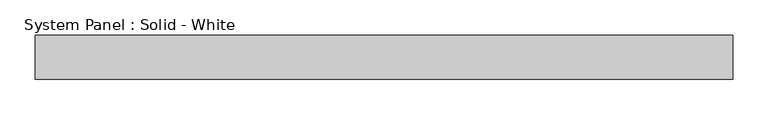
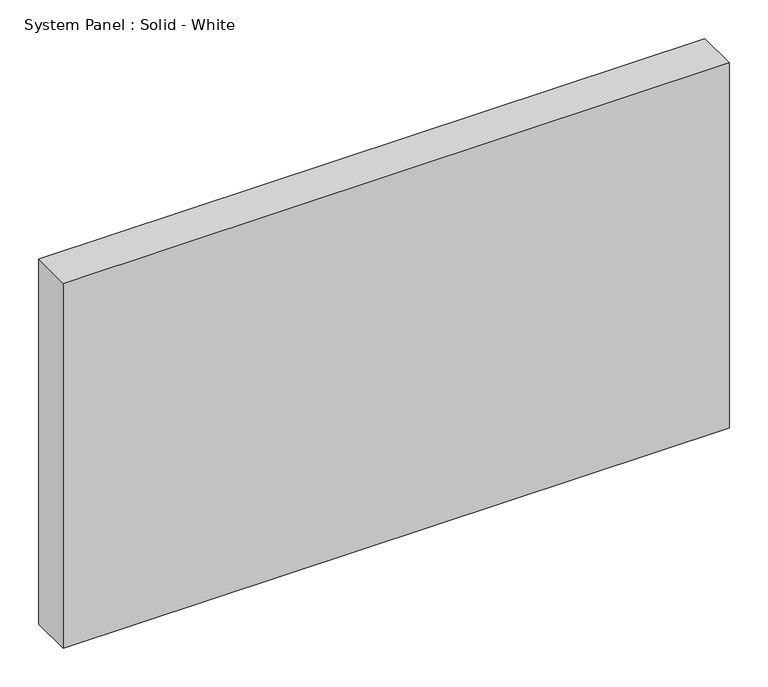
"""IFC4 building model written with IfcOpenShell, lengths in millimetres: plate geometry, System Panel : Solid - White."""

from ifc_helpers import new_model, si_unit, origin, origin_with_axes, place, context, project, spatial, polyline, outline, extrude, source, transform, mapped, element, save


def system_panel_solid_white_f0d8491f(model_context):
    return source(origin(), model_context, "Body", "SweptSolid", [
        extrude(outline(polyline([(498.475, -19.05), (-498.475, -19.05), (-498.475, 44.45), (498.475, 44.45), (498.475, -19.05)])), origin_with_axes(), (0.0, 0.0, 1.0), 577.85),
    ])


if __name__ == "__main__":
    model = new_model("IFC4")
    model_context = context("Model", 3, world=origin())
    ifc_project = project(units=[si_unit("LENGTHUNIT", "METRE", prefix="MILLI")], contexts=[model_context])
    site = spatial("IfcSite", under=ifc_project)
    building = spatial("IfcBuilding", under=site)
    placement = place(None, origin())
    system_panel_solid_white_shape = system_panel_solid_white_f0d8491f(model_context)
    element("IfcPlate", 1, ObjectType="System Panel : Solid - White", at=placement, inside=building, context=model_context, shape_type="MappedRepresentation", body=[
        mapped(system_panel_solid_white_shape, transform((0.0, 0.0, 0.0), x_axis=(1.0, 0.0, 0.0), y_axis=(0.0, 1.0, 0.0), z_axis=(0.0, 0.0, 1.0))),
    ])
    save(model, "model.ifc")
